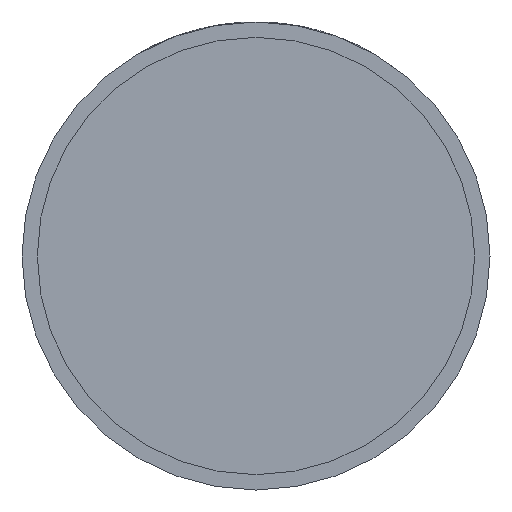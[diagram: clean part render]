
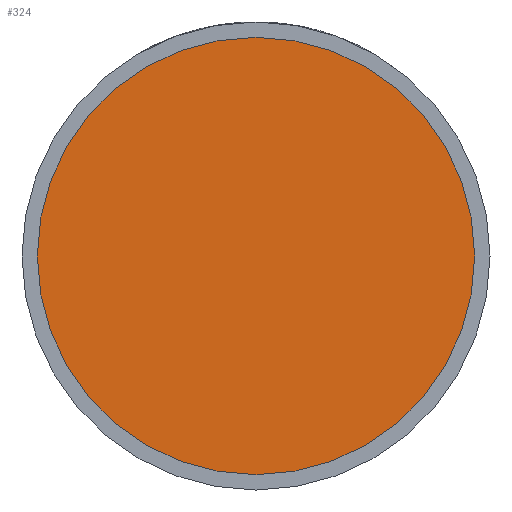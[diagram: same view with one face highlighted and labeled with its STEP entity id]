
A CAD part, front view. The second image highlights one B-rep face of the part: STEP entity #324.
In plain terms, the highlighted planar face has unit normal (0, -1, 0).
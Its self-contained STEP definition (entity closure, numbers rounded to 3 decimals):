
#320 = DIRECTION ( 'NONE',  ( 1., 0., 0. ) ) ;
#324 = ADVANCED_FACE ( 'NONE', ( #1290 ), #4264, .T. ) ;
#356 = DIRECTION ( 'NONE',  ( 0., -1., 0. ) ) ;
#392 = CARTESIAN_POINT ( 'NONE',  ( 0., -17.5, 0. ) ) ;
#528 = VERTEX_POINT ( 'NONE', #3619 ) ;
#619 = VERTEX_POINT ( 'NONE', #2296 ) ;
#1290 = FACE_OUTER_BOUND ( 'NONE', #3568, .T. ) ;
#1600 = CIRCLE ( 'NONE', #1792, 28.5 ) ;
#1707 = DIRECTION ( 'NONE',  ( 1., 0., 0. ) ) ;
#1792 = AXIS2_PLACEMENT_3D ( 'NONE', #3433, #2091, #3136 ) ;
#1959 = CARTESIAN_POINT ( 'NONE',  ( 28.5, -17.5, 0. ) ) ;
#2091 = DIRECTION ( 'NONE',  ( 0., -1., 0. ) ) ;
#2296 = CARTESIAN_POINT ( 'NONE',  ( -28.5, -17.5, 0. ) ) ;
#2306 = EDGE_CURVE ( 'NONE', #528, #619, #3604, .T. ) ;
#2424 = AXIS2_PLACEMENT_3D ( 'NONE', #1959, #3953, #320 ) ;
#2834 = ORIENTED_EDGE ( 'NONE', *, *, #2306, .T. ) ;
#3136 = DIRECTION ( 'NONE',  ( 1., 0., 0. ) ) ;
#3433 = CARTESIAN_POINT ( 'NONE',  ( 0., -17.5, 0. ) ) ;
#3568 = EDGE_LOOP ( 'NONE', ( #2834, #3817 ) ) ;
#3604 = CIRCLE ( 'NONE', #4234, 28.5 ) ;
#3619 = CARTESIAN_POINT ( 'NONE',  ( 28.5, -17.5, 0. ) ) ;
#3817 = ORIENTED_EDGE ( 'NONE', *, *, #4127, .T. ) ;
#3953 = DIRECTION ( 'NONE',  ( 0., -1., 0. ) ) ;
#4127 = EDGE_CURVE ( 'NONE', #619, #528, #1600, .T. ) ;
#4234 = AXIS2_PLACEMENT_3D ( 'NONE', #392, #356, #1707 ) ;
#4264 = PLANE ( 'NONE',  #2424 ) ;
